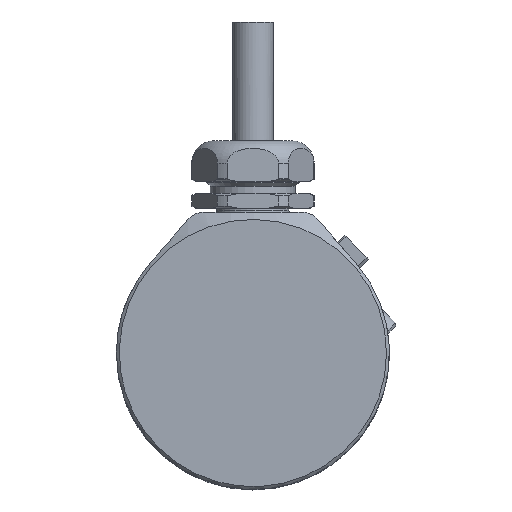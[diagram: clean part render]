
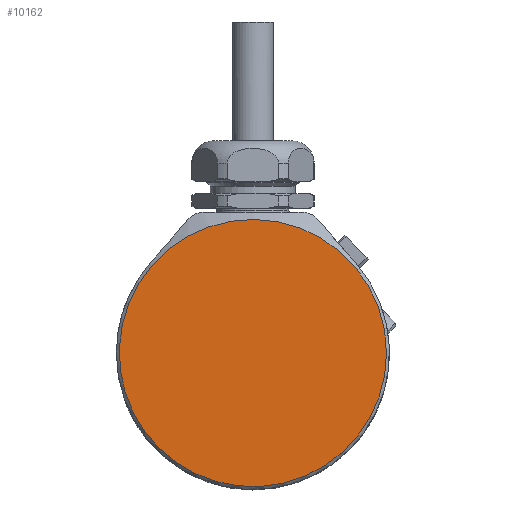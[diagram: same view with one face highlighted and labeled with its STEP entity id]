
A CAD part, top view. The second image highlights one B-rep face of the part: STEP entity #10162.
In plain terms, the highlighted planar face has unit normal (0, 0, 1).
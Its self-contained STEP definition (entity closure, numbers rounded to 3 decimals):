
#92=PLANE('',#10762);
#1969=ORIENTED_EDGE('',*,*,#3635,.T.);
#3635=EDGE_CURVE('',#4519,#4519,#5124,.T.);
#4519=VERTEX_POINT('',#14546);
#5124=CIRCLE('',#10763,18.);
#5552=EDGE_LOOP('',(#1969));
#6207=FACE_BOUND('',#5552,.T.);
#10162=ADVANCED_FACE('',(#6207),#92,.T.);
#10762=AXIS2_PLACEMENT_3D('',#14544,#11943,#11944);
#10763=AXIS2_PLACEMENT_3D('',#14545,#11945,#11946);
#11943=DIRECTION('',(0.,0.,1.));
#11944=DIRECTION('',(1.,0.,0.));
#11945=DIRECTION('',(0.,0.,1.));
#11946=DIRECTION('',(1.,0.,0.));
#14544=CARTESIAN_POINT('',(0.,0.,48.1));
#14545=CARTESIAN_POINT('',(0.,0.,48.1));
#14546=CARTESIAN_POINT('',(18.,0.,48.1));
